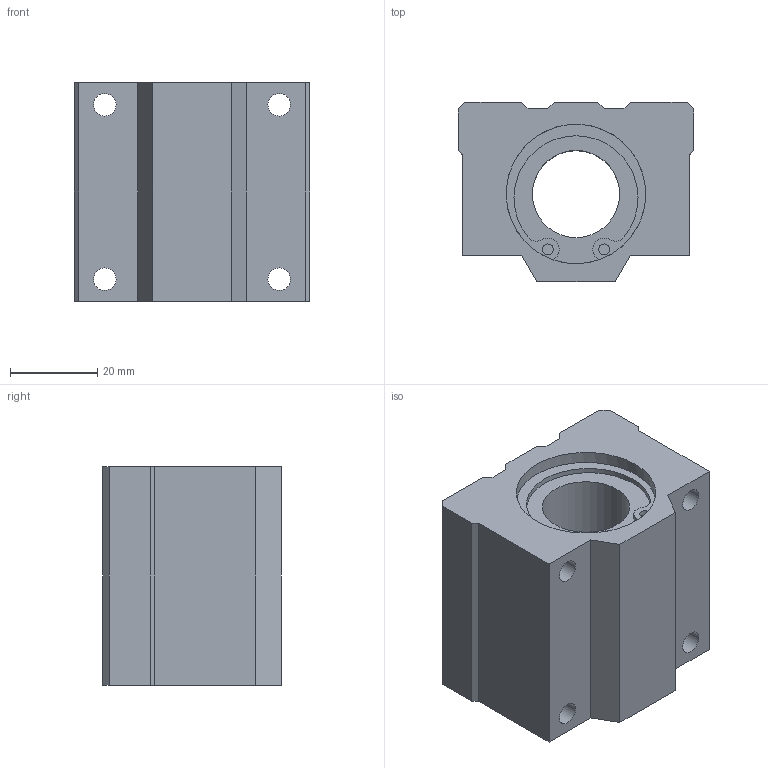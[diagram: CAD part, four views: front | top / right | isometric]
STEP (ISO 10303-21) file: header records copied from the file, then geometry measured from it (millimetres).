
FILE_DESCRIPTION(('STEP AP203'),'1');
FILE_NAME('//192.168.1.1/share/s-4 技術開発/s-4-4_CAD/s-4-4-3_見直し済み/008 修正済み/LC-A/LC-A_TOP/LC-20VAUU.step','2022-05-19T01:36:55',(' '),(' '),'Spatial InterOp 3D',' ',' ');
FILE_SCHEMA(('CONFIG_CONTROL_DESIGN'));
Length unit declared in the file: millimetre
Products named in the file (1): 1
Bounding box: 54 x 41 x 50 mm (x, y, z)
Volume: 75408.4 mm3; surface area: 18093.2 mm2
Topology: 1 solids, 1 shells, 65 faces, 171 edges, 114 vertices
Faces by surface type: plane 36, cylinder 29
Full cylindrical faces by diameter (mm): 2.5 x4, 5.2 x8, 20 x1, 32 x2
Entity records: 1956 total; most frequent: DIRECTION 338, CARTESIAN_POINT 324, ORIENTED_EDGE 300, EDGE_CURVE 150, AXIS2_PLACEMENT_3D 122, VERTEX_POINT 108, EDGE_LOOP 96, LINE 94
